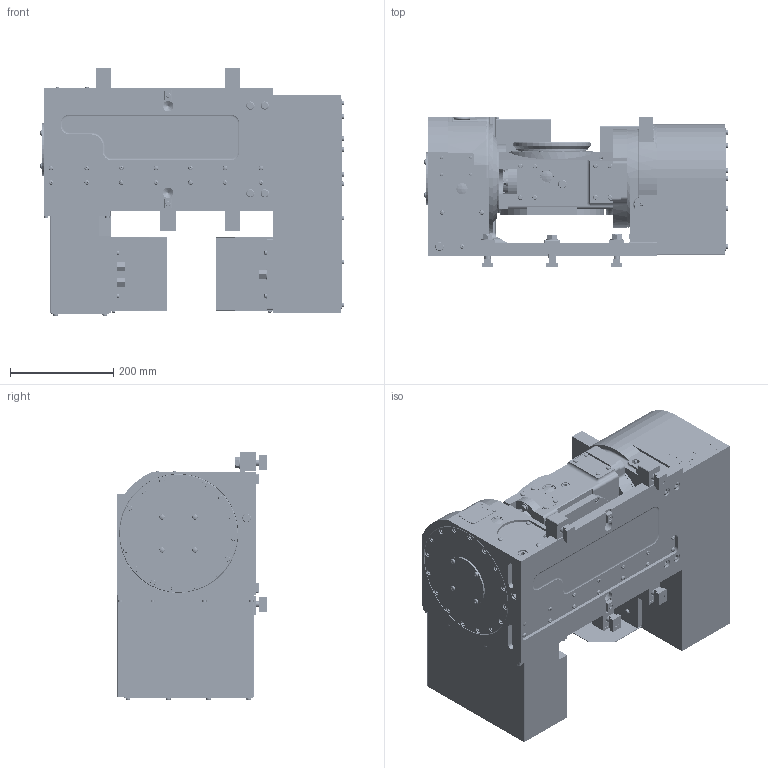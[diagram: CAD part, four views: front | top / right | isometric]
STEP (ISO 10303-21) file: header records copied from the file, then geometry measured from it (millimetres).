
FILE_DESCRIPTION (( 'STEP AP214' ), '1' );
FILE_NAME ('【掲載用】TT150付加軸.STEP', '2019-10-10T06:56:00', ( '' ), ( '' ), 'SwSTEP 2.0', 'SolidWorks 2017', '' );
FILE_SCHEMA (( 'AUTOMOTIVE_DESIGN' ));
Length unit declared in the file: millimetre
Products named in the file (19): BASE(61E114920)TT150A01_GB14; 【掲載用】TT150付加軸; CLAMPING PARTS(61E444176)TT181D3; Tスロットナット１４１２; Wヒラ　パーカ12; B 8.8 パーカ M12×55; クランプ(61E444174)TT150AE-04; TABLE(61E819648)TT150A01; BODY(61E114919)TT150A01; BASE_TT150AF; キタガワシール; SMC KQ2E06-02; コネクタカバー(61E828569); コネクタカバー(61E828566); コネクタプレート(61E484405); コネクタプレート(61E478411）; モータケース(61E2743650)TT150AFR61; モータケース(61E273001)TT150AF-01
Assembly tree (23 placements, depth 3):
  【掲載用】TT150付加軸
    BASE_TT150AF
      BASE(61E114920)TT150A01_GB14
      モータケース(61E273001)TT150AF-01
      モータケース(61E2743650)TT150AFR61
      コネクタプレート(61E478411）
      コネクタプレート(61E484405)
      コネクタカバー(61E828566)
      コネクタカバー(61E828569)
      SMC KQ2E06-02  x3
      キタガワシール
    BODY(61E114919)TT150A01
      BODY(61E114919)TT150A01
    TABLE(61E819648)TT150A01
    CLAMPING PARTS(61E444176)TT181D3  x4
      クランプ(61E444174)TT150AE-04
      B 8.8 パーカ M12×55
      Wヒラ　パーカ12
      Tスロットナット１４１２
Bounding box: 588.88 x 292 x 480.8 mm (x, y, z)
Volume: 38649860.7 mm3; surface area: 2112584.3 mm2
Topology: 34 solids, 155 shells, 5852 faces, 13835 edges, 8756 vertices
Faces by surface type: plane 3459, cylinder 1596, cone 525, torus 180, sphere 70, bspline 22
Entity records: 168822 total; most frequent: CARTESIAN_POINT 31778, DIRECTION 28200, ORIENTED_EDGE 26476, EDGE_CURVE 13238, AXIS2_PLACEMENT_3D 9693, VECTOR 8814, LINE 8814, VERTEX_POINT 8446
